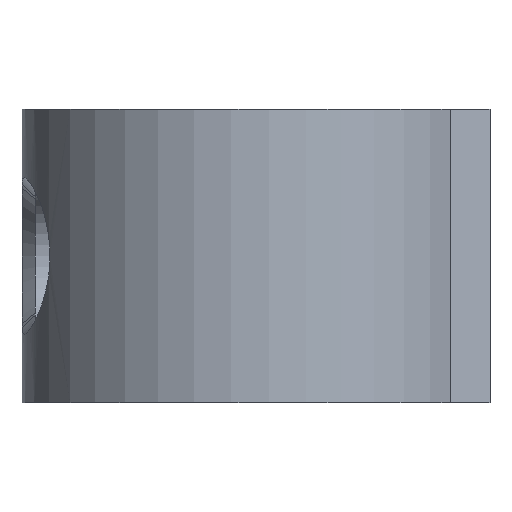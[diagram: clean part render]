
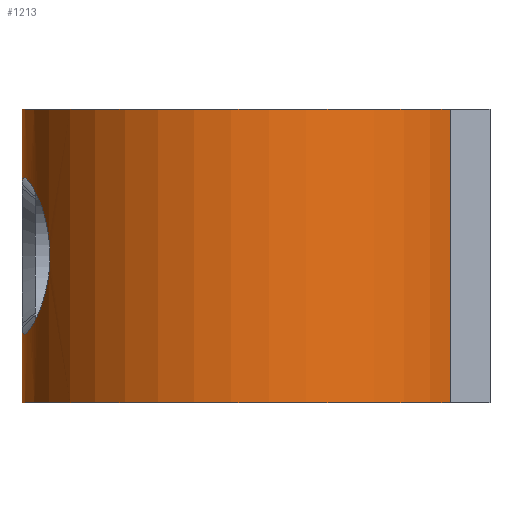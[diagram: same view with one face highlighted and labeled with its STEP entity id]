
A CAD part, left-side view. The second image highlights one B-rep face of the part: STEP entity #1213.
In plain terms, the highlighted cylindrical face has radius 35 mm (diameter 70 mm), a partial arc.
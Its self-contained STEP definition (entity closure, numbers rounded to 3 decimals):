
#69=B_SPLINE_CURVE_WITH_KNOTS('',3,(#1864,#1865,#1866,#1867,#1868,#1869,
#1870,#1871,#1872,#1873,#1874,#1875,#1876,#1877,#1878,#1879,#1880,#1881,
#1882,#1883,#1884,#1885,#1886,#1887,#1888),.UNSPECIFIED.,.F.,.F.,(4,1,1,
1,1,1,1,1,1,1,1,1,1,1,1,1,1,1,1,1,1,1,4),(-1.953,-1.744,
-1.674,-1.395,-1.116,-0.907,
-0.837,-0.698,-0.558,-0.279,
-0.163,-0.093,0.093,0.186,
0.279,0.651,0.837,0.977,
1.256,1.395,1.674,1.744,1.953),
 .UNSPECIFIED.);
#102=CIRCLE('',#1303,35.);
#103=CIRCLE('',#1304,35.);
#160=CYLINDRICAL_SURFACE('',#1302,35.);
#184=FACE_OUTER_BOUND('',#256,.T.);
#256=EDGE_LOOP('',(#853,#854,#855,#856,#857,#858));
#352=LINE('',#1842,#443);
#361=LINE('',#1862,#452);
#362=LINE('',#1890,#453);
#443=VECTOR('',#1445,10.);
#452=VECTOR('',#1462,10.);
#453=VECTOR('',#1463,10.);
#537=VERTEX_POINT('',#1839);
#538=VERTEX_POINT('',#1841);
#544=VERTEX_POINT('',#1859);
#545=VERTEX_POINT('',#1861);
#546=VERTEX_POINT('',#1863);
#547=VERTEX_POINT('',#1889);
#655=EDGE_CURVE('',#538,#537,#352,.T.);
#664=EDGE_CURVE('',#544,#537,#102,.T.);
#665=EDGE_CURVE('',#544,#545,#361,.T.);
#666=EDGE_CURVE('',#546,#545,#69,.T.);
#667=EDGE_CURVE('',#546,#547,#362,.T.);
#668=EDGE_CURVE('',#538,#547,#103,.T.);
#853=ORIENTED_EDGE('',*,*,#655,.T.);
#854=ORIENTED_EDGE('',*,*,#664,.F.);
#855=ORIENTED_EDGE('',*,*,#665,.T.);
#856=ORIENTED_EDGE('',*,*,#666,.F.);
#857=ORIENTED_EDGE('',*,*,#667,.T.);
#858=ORIENTED_EDGE('',*,*,#668,.F.);
#1213=ADVANCED_FACE('',(#184),#160,.T.);
#1302=AXIS2_PLACEMENT_3D('',#1858,#1458,#1459);
#1303=AXIS2_PLACEMENT_3D('',#1860,#1460,#1461);
#1304=AXIS2_PLACEMENT_3D('',#1891,#1464,#1465);
#1445=DIRECTION('',(0.,0.,1.));
#1458=DIRECTION('center_axis',(0.,0.,-1.));
#1459=DIRECTION('ref_axis',(-0.969,0.247,0.));
#1460=DIRECTION('center_axis',(0.,0.,1.));
#1461=DIRECTION('ref_axis',(1.,0.,0.));
#1462=DIRECTION('',(0.,0.,-1.));
#1463=DIRECTION('',(0.,0.,-1.));
#1464=DIRECTION('center_axis',(0.,0.,-1.));
#1465=DIRECTION('ref_axis',(1.,0.,0.));
#1839=CARTESIAN_POINT('',(-150.032,46.101,0.));
#1841=CARTESIAN_POINT('',(-150.032,46.101,-45.));
#1842=CARTESIAN_POINT('',(-150.032,46.101,0.));
#1858=CARTESIAN_POINT('Origin',(-133.306,76.845,0.));
#1859=CARTESIAN_POINT('',(-133.306,111.845,0.));
#1860=CARTESIAN_POINT('Origin',(-133.306,76.845,0.));
#1861=CARTESIAN_POINT('',(-133.306,111.845,-11.591));
#1862=CARTESIAN_POINT('',(-133.306,111.845,0.));
#1863=CARTESIAN_POINT('',(-133.306,111.845,-33.409));
#1864=CARTESIAN_POINT('Ctrl Pts',(-133.306,111.845,-33.409));
#1865=CARTESIAN_POINT('Ctrl Pts',(-134.113,111.845,-33.778));
#1866=CARTESIAN_POINT('Ctrl Pts',(-135.247,111.807,-34.152));
#1867=CARTESIAN_POINT('Ctrl Pts',(-137.539,111.612,-34.545));
#1868=CARTESIAN_POINT('Ctrl Pts',(-140.03,111.251,-34.537));
#1869=CARTESIAN_POINT('Ctrl Pts',(-143.094,110.49,-33.635));
#1870=CARTESIAN_POINT('Ctrl Pts',(-145.011,109.84,-32.461));
#1871=CARTESIAN_POINT('Ctrl Pts',(-146.281,109.357,-31.419));
#1872=CARTESIAN_POINT('Ctrl Pts',(-147.205,108.974,-30.481));
#1873=CARTESIAN_POINT('Ctrl Pts',(-148.546,108.367,-28.692));
#1874=CARTESIAN_POINT('Ctrl Pts',(-149.481,107.886,-26.631));
#1875=CARTESIAN_POINT('Ctrl Pts',(-149.911,107.656,-24.711));
#1876=CARTESIAN_POINT('Ctrl Pts',(-150.107,107.55,-23.161));
#1877=CARTESIAN_POINT('Ctrl Pts',(-150.108,107.549,-21.746));
#1878=CARTESIAN_POINT('Ctrl Pts',(-149.892,107.666,-20.193));
#1879=CARTESIAN_POINT('Ctrl Pts',(-149.358,107.952,-17.898));
#1880=CARTESIAN_POINT('Ctrl Pts',(-148.065,108.61,-15.429));
#1881=CARTESIAN_POINT('Ctrl Pts',(-146.232,109.383,-13.5));
#1882=CARTESIAN_POINT('Ctrl Pts',(-144.341,110.086,-12.045));
#1883=CARTESIAN_POINT('Ctrl Pts',(-142.265,110.714,-11.074));
#1884=CARTESIAN_POINT('Ctrl Pts',(-139.469,111.331,-10.465));
#1885=CARTESIAN_POINT('Ctrl Pts',(-137.541,111.613,-10.454));
#1886=CARTESIAN_POINT('Ctrl Pts',(-135.246,111.807,-10.848));
#1887=CARTESIAN_POINT('Ctrl Pts',(-134.113,111.845,-11.222));
#1888=CARTESIAN_POINT('Ctrl Pts',(-133.306,111.845,-11.591));
#1889=CARTESIAN_POINT('',(-133.306,111.845,-45.));
#1890=CARTESIAN_POINT('',(-133.306,111.845,0.));
#1891=CARTESIAN_POINT('Origin',(-133.306,76.845,-45.));
